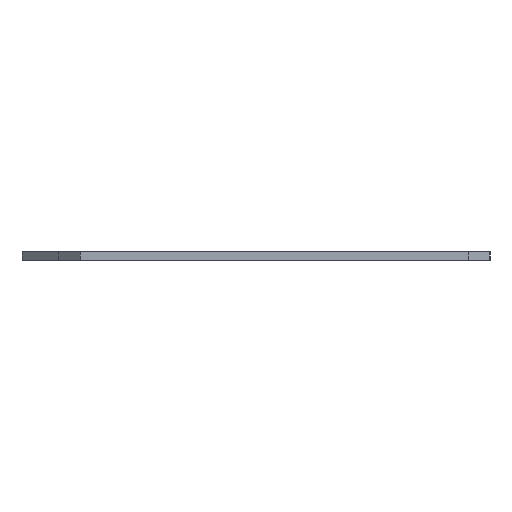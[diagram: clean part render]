
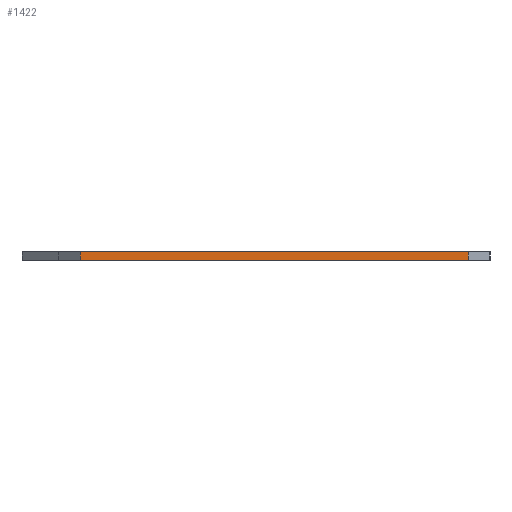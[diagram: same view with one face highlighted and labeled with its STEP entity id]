
A CAD part, left-side view. The second image highlights one B-rep face of the part: STEP entity #1422.
In plain terms, the highlighted planar face has unit normal (-1, 0, 0).
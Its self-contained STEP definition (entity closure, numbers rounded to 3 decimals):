
#44 = PLANE('',#45);
#45 = AXIS2_PLACEMENT_3D('',#46,#47,#48);
#46 = CARTESIAN_POINT('',(-58.,-39.,-11.6));
#47 = DIRECTION('',(0.707,0.707,-0.));
#48 = DIRECTION('',(0.707,-0.707,0.));
#72 = PLANE('',#73);
#73 = AXIS2_PLACEMENT_3D('',#74,#75,#76);
#74 = CARTESIAN_POINT('',(0.956,-1.253,-10.1));
#75 = DIRECTION('',(0.,0.,1.));
#76 = DIRECTION('',(1.,0.,0.));
#126 = PLANE('',#127);
#127 = AXIS2_PLACEMENT_3D('',#128,#129,#130);
#128 = CARTESIAN_POINT('',(0.956,-1.253,-11.6));
#129 = DIRECTION('',(0.,0.,1.));
#130 = DIRECTION('',(1.,0.,0.));
#141 = EDGE_CURVE('',#142,#144,#146,.T.);
#142 = VERTEX_POINT('',#143);
#143 = CARTESIAN_POINT('',(-58.,-39.,-11.6));
#144 = VERTEX_POINT('',#145);
#145 = CARTESIAN_POINT('',(-58.,-39.,-10.1));
#146 = SURFACE_CURVE('',#147,(#151,#158),.PCURVE_S1.);
#147 = LINE('',#148,#149);
#148 = CARTESIAN_POINT('',(-58.,-39.,-11.6));
#149 = VECTOR('',#150,1.);
#150 = DIRECTION('',(0.,0.,1.));
#151 = PCURVE('',#44,#152);
#152 = DEFINITIONAL_REPRESENTATION('',(#153),#157);
#153 = LINE('',#154,#155);
#154 = CARTESIAN_POINT('',(0.,0.));
#155 = VECTOR('',#156,1.);
#156 = DIRECTION('',(0.,-1.));
#157 = ( GEOMETRIC_REPRESENTATION_CONTEXT(2) 
PARAMETRIC_REPRESENTATION_CONTEXT() REPRESENTATION_CONTEXT('2D SPACE',''
  ) );
#158 = PCURVE('',#159,#164);
#159 = PLANE('',#160);
#160 = AXIS2_PLACEMENT_3D('',#161,#162,#163);
#161 = CARTESIAN_POINT('',(-58.,32.25,-11.6));
#162 = DIRECTION('',(1.,0.,-0.));
#163 = DIRECTION('',(0.,-1.,0.));
#164 = DEFINITIONAL_REPRESENTATION('',(#165),#169);
#165 = LINE('',#166,#167);
#166 = CARTESIAN_POINT('',(71.25,0.));
#167 = VECTOR('',#168,1.);
#168 = DIRECTION('',(0.,-1.));
#169 = ( GEOMETRIC_REPRESENTATION_CONTEXT(2) 
PARAMETRIC_REPRESENTATION_CONTEXT() REPRESENTATION_CONTEXT('2D SPACE',''
  ) );
#431 = VERTEX_POINT('',#432);
#432 = CARTESIAN_POINT('',(-58.,32.25,-11.6));
#446 = PLANE('',#447);
#447 = AXIS2_PLACEMENT_3D('',#448,#449,#450);
#448 = CARTESIAN_POINT('',(-54.,36.25,-11.6));
#449 = DIRECTION('',(0.707,-0.707,0.));
#450 = DIRECTION('',(-0.707,-0.707,0.));
#458 = EDGE_CURVE('',#431,#142,#459,.T.);
#459 = SURFACE_CURVE('',#460,(#464,#471),.PCURVE_S1.);
#460 = LINE('',#461,#462);
#461 = CARTESIAN_POINT('',(-58.,32.25,-11.6));
#462 = VECTOR('',#463,1.);
#463 = DIRECTION('',(0.,-1.,0.));
#464 = PCURVE('',#126,#465);
#465 = DEFINITIONAL_REPRESENTATION('',(#466),#470);
#466 = LINE('',#467,#468);
#467 = CARTESIAN_POINT('',(-58.956,33.503));
#468 = VECTOR('',#469,1.);
#469 = DIRECTION('',(0.,-1.));
#470 = ( GEOMETRIC_REPRESENTATION_CONTEXT(2) 
PARAMETRIC_REPRESENTATION_CONTEXT() REPRESENTATION_CONTEXT('2D SPACE',''
  ) );
#471 = PCURVE('',#159,#472);
#472 = DEFINITIONAL_REPRESENTATION('',(#473),#477);
#473 = LINE('',#474,#475);
#474 = CARTESIAN_POINT('',(0.,0.));
#475 = VECTOR('',#476,1.);
#476 = DIRECTION('',(1.,0.));
#477 = ( GEOMETRIC_REPRESENTATION_CONTEXT(2) 
PARAMETRIC_REPRESENTATION_CONTEXT() REPRESENTATION_CONTEXT('2D SPACE',''
  ) );
#1025 = VERTEX_POINT('',#1026);
#1026 = CARTESIAN_POINT('',(-58.,32.25,-10.1));
#1047 = EDGE_CURVE('',#1025,#144,#1048,.T.);
#1048 = SURFACE_CURVE('',#1049,(#1053,#1060),.PCURVE_S1.);
#1049 = LINE('',#1050,#1051);
#1050 = CARTESIAN_POINT('',(-58.,32.25,-10.1));
#1051 = VECTOR('',#1052,1.);
#1052 = DIRECTION('',(0.,-1.,0.));
#1053 = PCURVE('',#72,#1054);
#1054 = DEFINITIONAL_REPRESENTATION('',(#1055),#1059);
#1055 = LINE('',#1056,#1057);
#1056 = CARTESIAN_POINT('',(-58.956,33.503));
#1057 = VECTOR('',#1058,1.);
#1058 = DIRECTION('',(0.,-1.));
#1059 = ( GEOMETRIC_REPRESENTATION_CONTEXT(2) 
PARAMETRIC_REPRESENTATION_CONTEXT() REPRESENTATION_CONTEXT('2D SPACE',''
  ) );
#1060 = PCURVE('',#159,#1061);
#1061 = DEFINITIONAL_REPRESENTATION('',(#1062),#1066);
#1062 = LINE('',#1063,#1064);
#1063 = CARTESIAN_POINT('',(0.,-1.5));
#1064 = VECTOR('',#1065,1.);
#1065 = DIRECTION('',(1.,0.));
#1066 = ( GEOMETRIC_REPRESENTATION_CONTEXT(2) 
PARAMETRIC_REPRESENTATION_CONTEXT() REPRESENTATION_CONTEXT('2D SPACE',''
  ) );
#1422 = ADVANCED_FACE('',(#1423),#159,.F.);
#1423 = FACE_BOUND('',#1424,.F.);
#1424 = EDGE_LOOP('',(#1425,#1446,#1447,#1448));
#1425 = ORIENTED_EDGE('',*,*,#1426,.T.);
#1426 = EDGE_CURVE('',#431,#1025,#1427,.T.);
#1427 = SURFACE_CURVE('',#1428,(#1432,#1439),.PCURVE_S1.);
#1428 = LINE('',#1429,#1430);
#1429 = CARTESIAN_POINT('',(-58.,32.25,-11.6));
#1430 = VECTOR('',#1431,1.);
#1431 = DIRECTION('',(0.,0.,1.));
#1432 = PCURVE('',#159,#1433);
#1433 = DEFINITIONAL_REPRESENTATION('',(#1434),#1438);
#1434 = LINE('',#1435,#1436);
#1435 = CARTESIAN_POINT('',(0.,0.));
#1436 = VECTOR('',#1437,1.);
#1437 = DIRECTION('',(0.,-1.));
#1438 = ( GEOMETRIC_REPRESENTATION_CONTEXT(2) 
PARAMETRIC_REPRESENTATION_CONTEXT() REPRESENTATION_CONTEXT('2D SPACE',''
  ) );
#1439 = PCURVE('',#446,#1440);
#1440 = DEFINITIONAL_REPRESENTATION('',(#1441),#1445);
#1441 = LINE('',#1442,#1443);
#1442 = CARTESIAN_POINT('',(5.657,0.));
#1443 = VECTOR('',#1444,1.);
#1444 = DIRECTION('',(0.,-1.));
#1445 = ( GEOMETRIC_REPRESENTATION_CONTEXT(2) 
PARAMETRIC_REPRESENTATION_CONTEXT() REPRESENTATION_CONTEXT('2D SPACE',''
  ) );
#1446 = ORIENTED_EDGE('',*,*,#1047,.T.);
#1447 = ORIENTED_EDGE('',*,*,#141,.F.);
#1448 = ORIENTED_EDGE('',*,*,#458,.F.);
